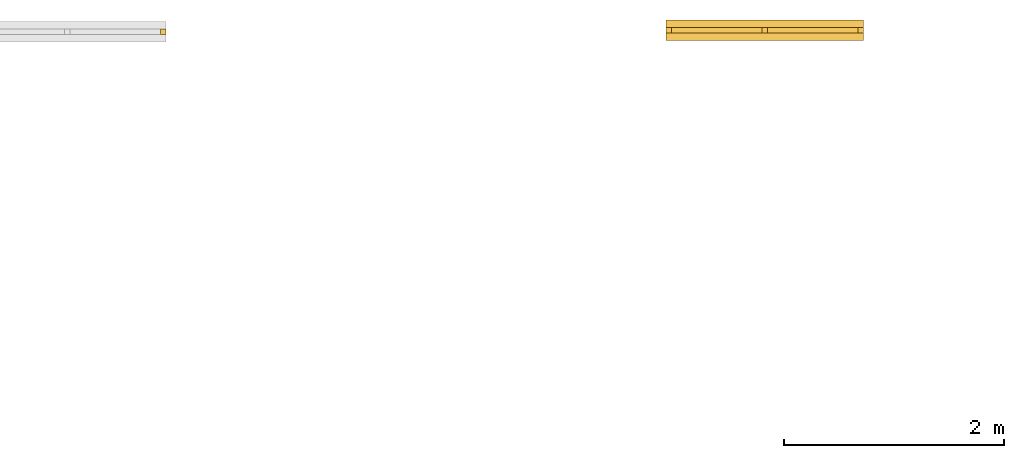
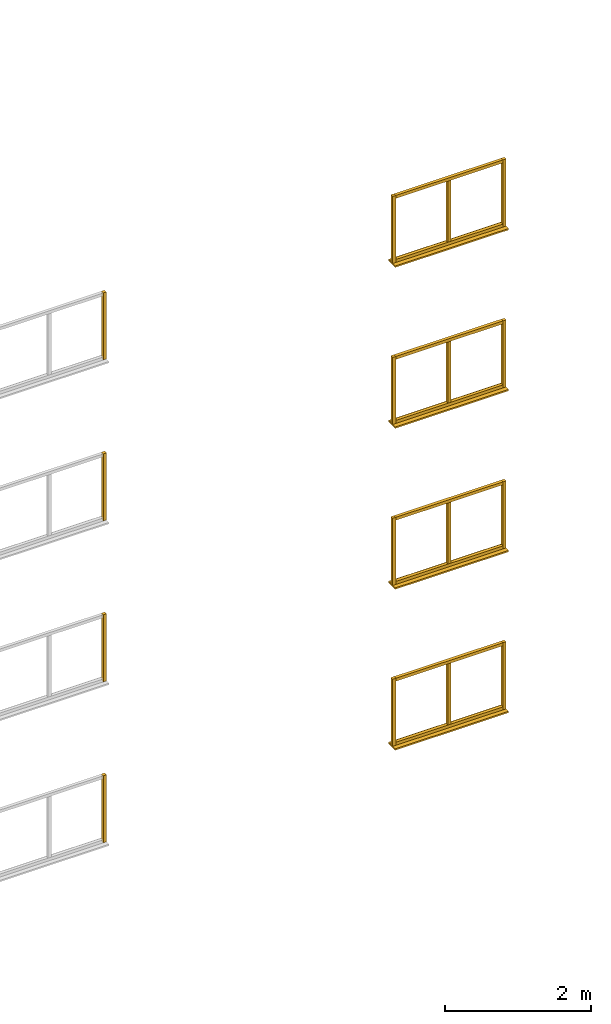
# Not in any storey, part 18 of 22: 28 windows.
"""IFC2X3 model written with IfcOpenShell, lengths in metres."""

import ifcopenshell
import ifcopenshell.guid

model = None  # the IFC model being written
_history = None  # IfcOwnerHistory: only IFC2X3 demands one
_inside = {}  # id of a spatial element -> (the spatial element, [elements in it])
_under = {}  # id of a project, library or spatial element -> (it, [spatial elements below it])
_declared = {}  # id of a project -> (the project, [libraries it declares])
_typed = {}  # id of a type object -> (the type object, [elements of that type])
_made_of = {}  # id of a material, layer set ... -> (it, [elements and type objects made of it])


def new_model(schema):
    """Start an empty IFC model of exactly this schema.

    Asked for "IFC4X3", IfcOpenShell would pick the latest addendum, in which some entities
    have other attributes; the version numbers below select the first issue.
    IFC2X3 requires an IfcOwnerHistory on every rooted entity: one is made here for all.
    """
    global model, _history
    if schema == "IFC4X3":
        model = ifcopenshell.file(schema_version=(4, 3, 0, 0))
    else:
        model = ifcopenshell.file(schema=schema)
    _inside.clear()
    _under.clear()
    _declared.clear()
    _typed.clear()
    _made_of.clear()
    _history = None
    if model.schema == "IFC2X3":
        org = make("IfcOrganization", Name="unknown")
        user = make(
            "IfcPersonAndOrganization",
            ThePerson=make("IfcPerson", FamilyName="unknown"),
            TheOrganization=org,
        )
        app = make(
            "IfcApplication",
            ApplicationDeveloper=org,
            Version="unknown",
            ApplicationFullName="unknown",
            ApplicationIdentifier="unknown",
        )
        _history = make(
            "IfcOwnerHistory",
            OwningUser=user,
            OwningApplication=app,
            ChangeAction="ADDED",
            CreationDate=0,
        )
    return model


def make(cls, **values):
    """One entity of the class cls with the attributes given. An attribute that is None is left unset."""
    return model.create_entity(
        cls, **{name: value for name, value in values.items() if value is not None}
    )


def rooted(cls, **values):
    """An entity with a GlobalId (a new one), such as an element, a storey or a relation."""
    return make(cls, GlobalId=ifcopenshell.guid.new(), OwnerHistory=_history, **values)


def si_unit(unit_type, name, prefix=None):
    """IfcSIUnit, for example si_unit("LENGTHUNIT", "METRE", prefix="MILLI")."""
    return make("IfcSIUnit", UnitType=unit_type, Prefix=prefix, Name=name)


def assignment(units):
    """IfcUnitAssignment: the units of a project."""
    return None if units is None else make("IfcUnitAssignment", Units=units)


def point(xyz):
    """IfcCartesianPoint."""
    return None if xyz is None else make("IfcCartesianPoint", Coordinates=xyz)


def direction(xyz):
    """IfcDirection."""
    return None if xyz is None else make("IfcDirection", DirectionRatios=xyz)


def frame(location, z_axis=None, x_axis=None):
    """IfcAxis2Placement3D, a coordinate frame: its origin and axes. An axis left out is left unset."""
    return make(
        "IfcAxis2Placement3D",
        Location=point(location),
        Axis=direction(z_axis),
        RefDirection=direction(x_axis),
    )


def origin():
    """The frame at (0, 0, 0) with its axes left unset."""
    return frame((0.0, 0.0, 0.0))


def place(relative_to, where):
    """IfcLocalPlacement: puts the frame where relative to a parent placement (None: the world)."""
    return make(
        "IfcLocalPlacement", PlacementRelTo=relative_to, RelativePlacement=where
    )


def context(
    kind, dimensions, precision=None, world=None, true_north=None, identifier=None
):
    """IfcGeometricRepresentationContext, for example the 3D "Model" context."""
    return make(
        "IfcGeometricRepresentationContext",
        ContextIdentifier=identifier,
        ContextType=kind,
        CoordinateSpaceDimension=dimensions,
        Precision=precision,
        WorldCoordinateSystem=world,
        TrueNorth=true_north,
    )


def project(units=None, contexts=None):
    """IfcProject with its units and contexts."""
    return rooted(
        "IfcProject",
        Name="project",
        RepresentationContexts=contexts,
        UnitsInContext=assignment(units),
    )


def faces_of(points, faces, orient=None, outer=None):
    """IfcFace entities. A face is a list of loops; a loop is a list of indices into points, from 0.

    orient and outer hold one flag for each loop. By default every Orientation is true, the
    first loop of a face is its IfcFaceOuterBound and the others are IfcFaceBound.
    """
    made = []
    for i, loops in enumerate(faces):
        bounds = []
        for j, loop in enumerate(loops):
            is_outer = j == 0 if outer is None else outer[i][j]
            bounds.append(
                make(
                    "IfcFaceOuterBound" if is_outer else "IfcFaceBound",
                    Bound=make("IfcPolyLoop", Polygon=[points[k] for k in loop]),
                    Orientation=True if orient is None else orient[i][j],
                )
            )
        made.append(make("IfcFace", Bounds=bounds))
    return made


def faceted_brep(points, faces, orient=None, outer=None, voids=None):
    """IfcFacetedBrep: a solid bounded by flat faces; with voids (closed shells), ...WithVoids."""
    shared = [point(p) for p in points]
    hull = make("IfcClosedShell", CfsFaces=faces_of(shared, faces, orient, outer))
    if voids is None:
        return make("IfcFacetedBrep", Outer=hull)
    return make(
        "IfcFacetedBrepWithVoids",
        Outer=hull,
        Voids=[
            make(cls, CfsFaces=faces_of(shared, fs, o, b)) for cls, fs, o, b in voids
        ],
    )


def shape(context_of_items, identifier, shape_type, items):
    """IfcShapeRepresentation: the items that make up one representation, for example the "Body"."""
    return make(
        "IfcShapeRepresentation",
        ContextOfItems=context_of_items,
        RepresentationIdentifier=identifier,
        RepresentationType=shape_type,
        Items=items,
    )


def made_of(thing, what):
    """Note that an element or type object is made of a material, layer set ...; save() writes the relation."""
    if what is not None:
        _made_of.setdefault(what.id(), (what, []))[1].append(thing)
    return thing


def element(
    cls,
    number,
    at=None,
    inside=None,
    cuts=None,
    type_object=None,
    material=None,
    context=None,
    identifier="Body",
    shape_type=None,
    held_by="IfcProductDefinitionShape",
    body=None,
    shapes=None,
    **own,
):
    """One element of the class cls, such as IfcWall. Its Tag is "e" and its number.

    at: its placement. inside: the storey or other place that contains it. cuts: it is an
    opening in that element (IfcRelVoidsElement). A single representation is given by context,
    identifier, shape_type and body (its items); several are given by shapes. held_by: the class
    of the entity that holds the representations. save() writes the other relations.
    """
    e = rooted(cls, Tag="e%d" % number, ObjectPlacement=at, **own)
    if body is not None:
        shapes = [shape(context, identifier, shape_type, body)]
    if shapes is not None:
        e.Representation = make(held_by, Representations=shapes)
    if inside is not None:
        _inside.setdefault(inside.id(), (inside, []))[1].append(e)
    if cuts is not None:
        rooted(
            "IfcRelVoidsElement", RelatingBuildingElement=cuts, RelatedOpeningElement=e
        )
    if type_object is not None:
        _typed.setdefault(type_object.id(), (type_object, []))[1].append(e)
    return made_of(e, material)


def aggregate(whole, parts):
    """IfcRelAggregates: a whole, such as a stair, and the parts it consists of."""
    return rooted("IfcRelAggregates", RelatingObject=whole, RelatedObjects=parts)


def save(model, path):
    """Write the relations noted so far, then the file.

    IfcRelAggregates (storeys below a building ...), IfcRelContainedInSpatialStructure (elements
    in a storey), IfcRelDefinesByType, IfcRelAssociatesMaterial and IfcRelDeclares: one each for
    every whole, place, type object, material and project.
    """
    for whole, parts in _under.values():
        aggregate(whole, parts)
    for where, things in _inside.values():
        rooted(
            "IfcRelContainedInSpatialStructure",
            RelatedElements=things,
            RelatingStructure=where,
        )
    for kind, things in _typed.values():
        rooted("IfcRelDefinesByType", RelatedObjects=things, RelatingType=kind)
    for what, things in _made_of.values():
        rooted("IfcRelAssociatesMaterial", RelatedObjects=things, RelatingMaterial=what)
    for by, libraries in _declared.values():
        rooted("IfcRelDeclares", RelatingContext=by, RelatedDefinitions=libraries)
    model.write(path)


model = new_model("IFC2X3")

# Units and contexts
model_context = context("Model", 3, precision=1e-06, world=origin())
ifc_project = project(units=[si_unit("LENGTHUNIT", "METRE"), si_unit("PLANEANGLEUNIT", "RADIAN")], contexts=[model_context])

# Windows
placement = place(None, origin())
window_1_placement = place(placement, frame((38.79540136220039, 10.601577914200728, 9.125000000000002), z_axis=(0.0, 0.0, 1.0), x_axis=(-1.0, 0.0, 0.0)))
element("IfcWindow", 1, at=window_1_placement, Name="leftFrame", context=model_context, shape_type="Brep", body=[
    faceted_brep([(0.0, 0.05, 0.0), (0.05, 0.05, 0.0), (0.05, 0.0, 0.0), (0.0, 0.0, 0.0), (0.05, 0.0, 1.125), (0.05, 0.05, 1.125), (0.0, 0.05, 1.125), (0.0, 0.0, 1.125), (0.0, 0.05, 0.0), (0.0, 0.0, 0.0), (0.0, 0.0, 1.125), (0.0, 0.05, 1.125), (0.05, 0.05, 0.0), (0.0, 0.05, 0.0), (0.0, 0.05, 1.125), (0.05, 0.05, 1.125), (0.05, 0.0, 0.0), (0.05, 0.05, 0.0), (0.05, 0.05, 1.125), (0.05, 0.0, 1.125), (0.0, 0.0, 0.0), (0.05, 0.0, 0.0), (0.05, 0.0, 1.125), (0.0, 0.0, 1.125)], [[[0, 1, 2, 3]], [[4, 5, 6, 7]], [[8, 9, 10, 11]], [[12, 13, 14, 15]], [[16, 17, 18, 19]], [[20, 21, 22, 23]]]),
])
window_2_placement = place(placement, frame((38.74540136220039, 10.601577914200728, 9.125000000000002), z_axis=(0.0, 0.0, 1.0), x_axis=(-1.0, 0.0, 0.0)))
element("IfcWindow", 2, at=window_2_placement, Name="bottomFrame", context=model_context, shape_type="Brep", body=[
    faceted_brep([(0.0, 0.05, 0.0), (1.7, 0.05, 0.0), (1.7, 0.0, 0.0), (0.0, 0.0, 0.0), (1.7, 0.0, 0.05), (1.7, 0.05, 0.05), (0.0, 0.05, 0.05), (0.0, 0.0, 0.05), (0.0, 0.05, 0.0), (0.0, 0.0, 0.0), (0.0, 0.0, 0.05), (0.0, 0.05, 0.05), (1.7, 0.05, 0.0), (0.0, 0.05, 0.0), (0.0, 0.05, 0.05), (1.7, 0.05, 0.05), (1.7, 0.0, 0.0), (1.7, 0.05, 0.0), (1.7, 0.05, 0.05), (1.7, 0.0, 0.05), (0.0, 0.0, 0.0), (1.7, 0.0, 0.0), (1.7, 0.0, 0.05), (0.0, 0.0, 0.05)], [[[0, 1, 2, 3]], [[4, 5, 6, 7]], [[8, 9, 10, 11]], [[12, 13, 14, 15]], [[16, 17, 18, 19]], [[20, 21, 22, 23]]]),
])
window_3_placement = place(placement, frame((37.92040136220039, 10.601577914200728, 9.175), z_axis=(0.0, 0.0, 1.0), x_axis=(-1.0, 0.0, 0.0)))
element("IfcWindow", 3, at=window_3_placement, Name="verticalBar", context=model_context, shape_type="Brep", body=[
    faceted_brep([(0.0, 0.05, 0.0), (0.05, 0.05, 0.0), (0.05, 0.0, 0.0), (0.0, 0.0, 0.0), (0.05, 0.0, 1.025), (0.05, 0.05, 1.025), (0.0, 0.05, 1.025), (0.0, 0.0, 1.025), (0.0, 0.05, 0.0), (0.0, 0.0, 0.0), (0.0, 0.0, 1.025), (0.0, 0.05, 1.025), (0.05, 0.05, 0.0), (0.0, 0.05, 0.0), (0.0, 0.05, 1.025), (0.05, 0.05, 1.025), (0.05, 0.0, 0.0), (0.05, 0.05, 0.0), (0.05, 0.05, 1.025), (0.05, 0.0, 1.025), (0.0, 0.0, 0.0), (0.05, 0.0, 0.0), (0.05, 0.0, 1.025), (0.0, 0.0, 1.025)], [[[0, 1, 2, 3]], [[4, 5, 6, 7]], [[8, 9, 10, 11]], [[12, 13, 14, 15]], [[16, 17, 18, 19]], [[20, 21, 22, 23]]]),
])
for number, where, z_axis, x_axis, name in (
    (4, (37.04540136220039, 10.601577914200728, 9.125000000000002), (0.0, 0.0, 1.0), (-1.0, 0.0, 0.0), "rightFrame"),
    (5, (32.44499990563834, 10.588577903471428, 9.125000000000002), (0.0, 0.0, 1.0), (-1.0, 0.0, 0.0), "leftFrame"),
    (6, (32.44499990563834, 10.588577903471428, 6.425000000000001), (0.0, 0.0, 1.0), (-1.0, 0.0, 0.0), "leftFrame"),
):
    element("IfcWindow", number, at=place(placement, frame(where, z_axis=z_axis, x_axis=x_axis)), Name=name, context=model_context, shape_type="Brep", body=[
        faceted_brep([(0.0, 0.05, 0.0), (0.05, 0.05, 0.0), (0.05, 0.0, 0.0), (0.0, 0.0, 0.0), (0.05, 0.0, 1.125), (0.05, 0.05, 1.125), (0.0, 0.05, 1.125), (0.0, 0.0, 1.125), (0.0, 0.05, 0.0), (0.0, 0.0, 0.0), (0.0, 0.0, 1.125), (0.0, 0.05, 1.125), (0.05, 0.05, 0.0), (0.0, 0.05, 0.0), (0.0, 0.05, 1.125), (0.05, 0.05, 1.125), (0.05, 0.0, 0.0), (0.05, 0.05, 0.0), (0.05, 0.05, 1.125), (0.05, 0.0, 1.125), (0.0, 0.0, 0.0), (0.05, 0.0, 0.0), (0.05, 0.0, 1.125), (0.0, 0.0, 1.125)], [[[0, 1, 2, 3]], [[4, 5, 6, 7]], [[8, 9, 10, 11]], [[12, 13, 14, 15]], [[16, 17, 18, 19]], [[20, 21, 22, 23]]]),
    ])
window_4_placement = place(placement, frame((38.79540136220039, 10.670077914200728, 6.4), z_axis=(0.0, 0.0, 1.0), x_axis=(-1.0, 0.0, 0.0)))
element("IfcWindow", 7, at=window_4_placement, Name="windowSill", context=model_context, shape_type="Brep", body=[
    faceted_brep([(0.0, 0.187, 0.0), (1.8, 0.187, 0.0), (1.8, 0.0, 0.0), (0.0, 0.0, 0.0), (1.8, 0.0, 0.025), (1.8, 0.187, 0.025), (0.0, 0.187, 0.025), (0.0, 0.0, 0.025), (0.0, 0.187, 0.0), (0.0, 0.0, 0.0), (0.0, 0.0, 0.025), (0.0, 0.187, 0.025), (1.8, 0.187, 0.0), (0.0, 0.187, 0.0), (0.0, 0.187, 0.025), (1.8, 0.187, 0.025), (1.8, 0.0, 0.0), (1.8, 0.187, 0.0), (1.8, 0.187, 0.025), (1.8, 0.0, 0.025), (0.0, 0.0, 0.0), (1.8, 0.0, 0.0), (1.8, 0.0, 0.025), (0.0, 0.0, 0.025)], [[[0, 1, 2, 3]], [[4, 5, 6, 7]], [[8, 9, 10, 11]], [[12, 13, 14, 15]], [[16, 17, 18, 19]], [[20, 21, 22, 23]]]),
])
for number, where, z_axis, x_axis, name in (
    (8, (38.79540136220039, 10.601577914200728, 6.425000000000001), (0.0, 0.0, 1.0), (-1.0, 0.0, 0.0), "leftFrame"),
    (9, (37.04540136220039, 10.601577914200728, 6.425000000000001), (0.0, 0.0, 1.0), (-1.0, 0.0, 0.0), "rightFrame"),
):
    element("IfcWindow", number, at=place(placement, frame(where, z_axis=z_axis, x_axis=x_axis)), Name=name, context=model_context, shape_type="Brep", body=[
        faceted_brep([(0.0, 0.05, 0.0), (0.05, 0.05, 0.0), (0.05, 0.0, 0.0), (0.0, 0.0, 0.0), (0.05, 0.0, 1.125), (0.05, 0.05, 1.125), (0.0, 0.05, 1.125), (0.0, 0.0, 1.125), (0.0, 0.05, 0.0), (0.0, 0.0, 0.0), (0.0, 0.0, 1.125), (0.0, 0.05, 1.125), (0.05, 0.05, 0.0), (0.0, 0.05, 0.0), (0.0, 0.05, 1.125), (0.05, 0.05, 1.125), (0.05, 0.0, 0.0), (0.05, 0.05, 0.0), (0.05, 0.05, 1.125), (0.05, 0.0, 1.125), (0.0, 0.0, 0.0), (0.05, 0.0, 0.0), (0.05, 0.0, 1.125), (0.0, 0.0, 1.125)], [[[0, 1, 2, 3]], [[4, 5, 6, 7]], [[8, 9, 10, 11]], [[12, 13, 14, 15]], [[16, 17, 18, 19]], [[20, 21, 22, 23]]]),
    ])
window_5_placement = place(placement, frame((38.74540136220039, 10.601577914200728, 7.5), z_axis=(0.0, 0.0, 1.0), x_axis=(-1.0, 0.0, 0.0)))
element("IfcWindow", 10, at=window_5_placement, Name="topFrame", context=model_context, shape_type="Brep", body=[
    faceted_brep([(0.0, 0.05, 0.0), (1.7, 0.05, 0.0), (1.7, 0.0, 0.0), (0.0, 0.0, 0.0), (1.7, 0.0, 0.05), (1.7, 0.05, 0.05), (0.0, 0.05, 0.05), (0.0, 0.0, 0.05), (0.0, 0.05, 0.0), (0.0, 0.0, 0.0), (0.0, 0.0, 0.05), (0.0, 0.05, 0.05), (1.7, 0.05, 0.0), (0.0, 0.05, 0.0), (0.0, 0.05, 0.05), (1.7, 0.05, 0.05), (1.7, 0.0, 0.0), (1.7, 0.05, 0.0), (1.7, 0.05, 0.05), (1.7, 0.0, 0.05), (0.0, 0.0, 0.0), (1.7, 0.0, 0.0), (1.7, 0.0, 0.05), (0.0, 0.0, 0.05)], [[[0, 1, 2, 3]], [[4, 5, 6, 7]], [[8, 9, 10, 11]], [[12, 13, 14, 15]], [[16, 17, 18, 19]], [[20, 21, 22, 23]]]),
])
window_6_placement = place(placement, frame((37.92040136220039, 10.601577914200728, 6.475000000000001), z_axis=(0.0, 0.0, 1.0), x_axis=(-1.0, 0.0, 0.0)))
element("IfcWindow", 11, at=window_6_placement, Name="verticalBar", context=model_context, shape_type="Brep", body=[
    faceted_brep([(0.0, 0.05, 0.0), (0.05, 0.05, 0.0), (0.05, 0.0, 0.0), (0.0, 0.0, 0.0), (0.05, 0.0, 1.025), (0.05, 0.05, 1.025), (0.0, 0.05, 1.025), (0.0, 0.0, 1.025), (0.0, 0.05, 0.0), (0.0, 0.0, 0.0), (0.0, 0.0, 1.025), (0.0, 0.05, 1.025), (0.05, 0.05, 0.0), (0.0, 0.05, 0.0), (0.0, 0.05, 1.025), (0.05, 0.05, 1.025), (0.05, 0.0, 0.0), (0.05, 0.05, 0.0), (0.05, 0.05, 1.025), (0.05, 0.0, 1.025), (0.0, 0.0, 0.0), (0.05, 0.0, 0.0), (0.05, 0.0, 1.025), (0.0, 0.0, 1.025)], [[[0, 1, 2, 3]], [[4, 5, 6, 7]], [[8, 9, 10, 11]], [[12, 13, 14, 15]], [[16, 17, 18, 19]], [[20, 21, 22, 23]]]),
])
window_7_placement = place(placement, frame((38.74540136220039, 10.601577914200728, 6.425000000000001), z_axis=(0.0, 0.0, 1.0), x_axis=(-1.0, 0.0, 0.0)))
element("IfcWindow", 12, at=window_7_placement, Name="bottomFrame", context=model_context, shape_type="Brep", body=[
    faceted_brep([(0.0, 0.05, 0.0), (1.7, 0.05, 0.0), (1.7, 0.0, 0.0), (0.0, 0.0, 0.0), (1.7, 0.0, 0.05), (1.7, 0.05, 0.05), (0.0, 0.05, 0.05), (0.0, 0.0, 0.05), (0.0, 0.05, 0.0), (0.0, 0.0, 0.0), (0.0, 0.0, 0.05), (0.0, 0.05, 0.05), (1.7, 0.05, 0.0), (0.0, 0.05, 0.0), (0.0, 0.05, 0.05), (1.7, 0.05, 0.05), (1.7, 0.0, 0.0), (1.7, 0.05, 0.0), (1.7, 0.05, 0.05), (1.7, 0.0, 0.05), (0.0, 0.0, 0.0), (1.7, 0.0, 0.0), (1.7, 0.0, 0.05), (0.0, 0.0, 0.05)], [[[0, 1, 2, 3]], [[4, 5, 6, 7]], [[8, 9, 10, 11]], [[12, 13, 14, 15]], [[16, 17, 18, 19]], [[20, 21, 22, 23]]]),
])
window_8_placement = place(placement, frame((32.44499990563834, 10.588577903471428, 3.725), z_axis=(0.0, 0.0, 1.0), x_axis=(-1.0, 0.0, 0.0)))
element("IfcWindow", 13, at=window_8_placement, Name="leftFrame", context=model_context, shape_type="Brep", body=[
    faceted_brep([(0.0, 0.05, 0.0), (0.05, 0.05, 0.0), (0.05, 0.0, 0.0), (0.0, 0.0, 0.0), (0.05, 0.0, 1.125), (0.05, 0.05, 1.125), (0.0, 0.05, 1.125), (0.0, 0.0, 1.125), (0.0, 0.05, 0.0), (0.0, 0.0, 0.0), (0.0, 0.0, 1.125), (0.0, 0.05, 1.125), (0.05, 0.05, 0.0), (0.0, 0.05, 0.0), (0.0, 0.05, 1.125), (0.05, 0.05, 1.125), (0.05, 0.0, 0.0), (0.05, 0.05, 0.0), (0.05, 0.05, 1.125), (0.05, 0.0, 1.125), (0.0, 0.0, 0.0), (0.05, 0.0, 0.0), (0.05, 0.0, 1.125), (0.0, 0.0, 1.125)], [[[0, 1, 2, 3]], [[4, 5, 6, 7]], [[8, 9, 10, 11]], [[12, 13, 14, 15]], [[16, 17, 18, 19]], [[20, 21, 22, 23]]]),
])
for number, where, z_axis, x_axis, name in (
    (14, (38.74540136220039, 10.601577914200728, 3.725), (0.0, 0.0, 1.0), (-1.0, 0.0, 0.0), "bottomFrame"),
    (15, (38.74540136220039, 10.601577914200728, 4.8), (0.0, 0.0, 1.0), (-1.0, 0.0, 0.0), "topFrame"),
):
    element("IfcWindow", number, at=place(placement, frame(where, z_axis=z_axis, x_axis=x_axis)), Name=name, context=model_context, shape_type="Brep", body=[
        faceted_brep([(0.0, 0.05, 0.0), (1.7, 0.05, 0.0), (1.7, 0.0, 0.0), (0.0, 0.0, 0.0), (1.7, 0.0, 0.05), (1.7, 0.05, 0.05), (0.0, 0.05, 0.05), (0.0, 0.0, 0.05), (0.0, 0.05, 0.0), (0.0, 0.0, 0.0), (0.0, 0.0, 0.05), (0.0, 0.05, 0.05), (1.7, 0.05, 0.0), (0.0, 0.05, 0.0), (0.0, 0.05, 0.05), (1.7, 0.05, 0.05), (1.7, 0.0, 0.0), (1.7, 0.05, 0.0), (1.7, 0.05, 0.05), (1.7, 0.0, 0.05), (0.0, 0.0, 0.0), (1.7, 0.0, 0.0), (1.7, 0.0, 0.05), (0.0, 0.0, 0.05)], [[[0, 1, 2, 3]], [[4, 5, 6, 7]], [[8, 9, 10, 11]], [[12, 13, 14, 15]], [[16, 17, 18, 19]], [[20, 21, 22, 23]]]),
    ])
for number, where, z_axis, x_axis, name in (
    (16, (37.04540136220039, 10.601577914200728, 3.725), (0.0, 0.0, 1.0), (-1.0, 0.0, 0.0), "rightFrame"),
    (17, (38.79540136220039, 10.601577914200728, 3.725), (0.0, 0.0, 1.0), (-1.0, 0.0, 0.0), "leftFrame"),
):
    element("IfcWindow", number, at=place(placement, frame(where, z_axis=z_axis, x_axis=x_axis)), Name=name, context=model_context, shape_type="Brep", body=[
        faceted_brep([(0.0, 0.05, 0.0), (0.05, 0.05, 0.0), (0.05, 0.0, 0.0), (0.0, 0.0, 0.0), (0.05, 0.0, 1.125), (0.05, 0.05, 1.125), (0.0, 0.05, 1.125), (0.0, 0.0, 1.125), (0.0, 0.05, 0.0), (0.0, 0.0, 0.0), (0.0, 0.0, 1.125), (0.0, 0.05, 1.125), (0.05, 0.05, 0.0), (0.0, 0.05, 0.0), (0.0, 0.05, 1.125), (0.05, 0.05, 1.125), (0.05, 0.0, 0.0), (0.05, 0.05, 0.0), (0.05, 0.05, 1.125), (0.05, 0.0, 1.125), (0.0, 0.0, 0.0), (0.05, 0.0, 0.0), (0.05, 0.0, 1.125), (0.0, 0.0, 1.125)], [[[0, 1, 2, 3]], [[4, 5, 6, 7]], [[8, 9, 10, 11]], [[12, 13, 14, 15]], [[16, 17, 18, 19]], [[20, 21, 22, 23]]]),
    ])
window_9_placement = place(placement, frame((38.79540136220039, 10.670077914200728, 3.7), z_axis=(0.0, 0.0, 1.0), x_axis=(-1.0, 0.0, 0.0)))
element("IfcWindow", 18, at=window_9_placement, Name="windowSill", context=model_context, shape_type="Brep", body=[
    faceted_brep([(0.0, 0.187, 0.0), (1.8, 0.187, 0.0), (1.8, 0.0, 0.0), (0.0, 0.0, 0.0), (1.8, 0.0, 0.025), (1.8, 0.187, 0.025), (0.0, 0.187, 0.025), (0.0, 0.0, 0.025), (0.0, 0.187, 0.0), (0.0, 0.0, 0.0), (0.0, 0.0, 0.025), (0.0, 0.187, 0.025), (1.8, 0.187, 0.0), (0.0, 0.187, 0.0), (0.0, 0.187, 0.025), (1.8, 0.187, 0.025), (1.8, 0.0, 0.0), (1.8, 0.187, 0.0), (1.8, 0.187, 0.025), (1.8, 0.0, 0.025), (0.0, 0.0, 0.0), (1.8, 0.0, 0.0), (1.8, 0.0, 0.025), (0.0, 0.0, 0.025)], [[[0, 1, 2, 3]], [[4, 5, 6, 7]], [[8, 9, 10, 11]], [[12, 13, 14, 15]], [[16, 17, 18, 19]], [[20, 21, 22, 23]]]),
])
window_10_placement = place(placement, frame((37.92040136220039, 10.601577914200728, 3.775), z_axis=(0.0, 0.0, 1.0), x_axis=(-1.0, 0.0, 0.0)))
element("IfcWindow", 19, at=window_10_placement, Name="verticalBar", context=model_context, shape_type="Brep", body=[
    faceted_brep([(0.0, 0.05, 0.0), (0.05, 0.05, 0.0), (0.05, 0.0, 0.0), (0.0, 0.0, 0.0), (0.05, 0.0, 1.025), (0.05, 0.05, 1.025), (0.0, 0.05, 1.025), (0.0, 0.0, 1.025), (0.0, 0.05, 0.0), (0.0, 0.0, 0.0), (0.0, 0.0, 1.025), (0.0, 0.05, 1.025), (0.05, 0.05, 0.0), (0.0, 0.05, 0.0), (0.0, 0.05, 1.025), (0.05, 0.05, 1.025), (0.05, 0.0, 0.0), (0.05, 0.05, 0.0), (0.05, 0.05, 1.025), (0.05, 0.0, 1.025), (0.0, 0.0, 0.0), (0.05, 0.0, 0.0), (0.05, 0.0, 1.025), (0.0, 0.0, 1.025)], [[[0, 1, 2, 3]], [[4, 5, 6, 7]], [[8, 9, 10, 11]], [[12, 13, 14, 15]], [[16, 17, 18, 19]], [[20, 21, 22, 23]]]),
])
window_11_placement = place(placement, frame((38.79540136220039, 10.670077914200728, 9.100000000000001), z_axis=(0.0, 0.0, 1.0), x_axis=(-1.0, 0.0, 0.0)))
element("IfcWindow", 20, at=window_11_placement, Name="windowSill", context=model_context, shape_type="Brep", body=[
    faceted_brep([(0.0, 0.187, 0.0), (1.8, 0.187, 0.0), (1.8, 0.0, 0.0), (0.0, 0.0, 0.0), (1.8, 0.0, 0.025), (1.8, 0.187, 0.025), (0.0, 0.187, 0.025), (0.0, 0.0, 0.025), (0.0, 0.187, 0.0), (0.0, 0.0, 0.0), (0.0, 0.0, 0.025), (0.0, 0.187, 0.025), (1.8, 0.187, 0.0), (0.0, 0.187, 0.0), (0.0, 0.187, 0.025), (1.8, 0.187, 0.025), (1.8, 0.0, 0.0), (1.8, 0.187, 0.0), (1.8, 0.187, 0.025), (1.8, 0.0, 0.025), (0.0, 0.0, 0.0), (1.8, 0.0, 0.0), (1.8, 0.0, 0.025), (0.0, 0.0, 0.025)], [[[0, 1, 2, 3]], [[4, 5, 6, 7]], [[8, 9, 10, 11]], [[12, 13, 14, 15]], [[16, 17, 18, 19]], [[20, 21, 22, 23]]]),
])
window_12_placement = place(placement, frame((32.44499990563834, 10.588577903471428, 1.025), z_axis=(0.0, 0.0, 1.0), x_axis=(-1.0, 0.0, 0.0)))
element("IfcWindow", 21, at=window_12_placement, Name="leftFrame", context=model_context, shape_type="Brep", body=[
    faceted_brep([(0.0, 0.05, 0.0), (0.05, 0.05, 0.0), (0.05, 0.0, 0.0), (0.0, 0.0, 0.0), (0.05, 0.0, 1.125), (0.05, 0.05, 1.125), (0.0, 0.05, 1.125), (0.0, 0.0, 1.125), (0.0, 0.05, 0.0), (0.0, 0.0, 0.0), (0.0, 0.0, 1.125), (0.0, 0.05, 1.125), (0.05, 0.05, 0.0), (0.0, 0.05, 0.0), (0.0, 0.05, 1.125), (0.05, 0.05, 1.125), (0.05, 0.0, 0.0), (0.05, 0.05, 0.0), (0.05, 0.05, 1.125), (0.05, 0.0, 1.125), (0.0, 0.0, 0.0), (0.05, 0.0, 0.0), (0.05, 0.0, 1.125), (0.0, 0.0, 1.125)], [[[0, 1, 2, 3]], [[4, 5, 6, 7]], [[8, 9, 10, 11]], [[12, 13, 14, 15]], [[16, 17, 18, 19]], [[20, 21, 22, 23]]]),
])
window_13_placement = place(placement, frame((37.92040136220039, 10.601577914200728, 1.075), z_axis=(0.0, 0.0, 1.0), x_axis=(-1.0, 0.0, 0.0)))
element("IfcWindow", 22, at=window_13_placement, Name="verticalBar", context=model_context, shape_type="Brep", body=[
    faceted_brep([(0.0, 0.05, 0.0), (0.05, 0.05, 0.0), (0.05, 0.0, 0.0), (0.0, 0.0, 0.0), (0.05, 0.0, 1.025), (0.05, 0.05, 1.025), (0.0, 0.05, 1.025), (0.0, 0.0, 1.025), (0.0, 0.05, 0.0), (0.0, 0.0, 0.0), (0.0, 0.0, 1.025), (0.0, 0.05, 1.025), (0.05, 0.05, 0.0), (0.0, 0.05, 0.0), (0.0, 0.05, 1.025), (0.05, 0.05, 1.025), (0.05, 0.0, 0.0), (0.05, 0.05, 0.0), (0.05, 0.05, 1.025), (0.05, 0.0, 1.025), (0.0, 0.0, 0.0), (0.05, 0.0, 0.0), (0.05, 0.0, 1.025), (0.0, 0.0, 1.025)], [[[0, 1, 2, 3]], [[4, 5, 6, 7]], [[8, 9, 10, 11]], [[12, 13, 14, 15]], [[16, 17, 18, 19]], [[20, 21, 22, 23]]]),
])
window_14_placement = place(placement, frame((38.79540136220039, 10.670077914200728, 1.0), z_axis=(0.0, 0.0, 1.0), x_axis=(-1.0, 0.0, 0.0)))
element("IfcWindow", 23, at=window_14_placement, Name="windowSill", context=model_context, shape_type="Brep", body=[
    faceted_brep([(0.0, 0.187, 0.0), (1.8, 0.187, 0.0), (1.8, 0.0, 0.0), (0.0, 0.0, 0.0), (1.8, 0.0, 0.025), (1.8, 0.187, 0.025), (0.0, 0.187, 0.025), (0.0, 0.0, 0.025), (0.0, 0.187, 0.0), (0.0, 0.0, 0.0), (0.0, 0.0, 0.025), (0.0, 0.187, 0.025), (1.8, 0.187, 0.0), (0.0, 0.187, 0.0), (0.0, 0.187, 0.025), (1.8, 0.187, 0.025), (1.8, 0.0, 0.0), (1.8, 0.187, 0.0), (1.8, 0.187, 0.025), (1.8, 0.0, 0.025), (0.0, 0.0, 0.0), (1.8, 0.0, 0.0), (1.8, 0.0, 0.025), (0.0, 0.0, 0.025)], [[[0, 1, 2, 3]], [[4, 5, 6, 7]], [[8, 9, 10, 11]], [[12, 13, 14, 15]], [[16, 17, 18, 19]], [[20, 21, 22, 23]]]),
])
for number, where, z_axis, x_axis, name in (
    (24, (37.04540136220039, 10.601577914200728, 1.025), (0.0, 0.0, 1.0), (-1.0, 0.0, 0.0), "rightFrame"),
    (25, (38.79540136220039, 10.601577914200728, 1.025), (0.0, 0.0, 1.0), (-1.0, 0.0, 0.0), "leftFrame"),
):
    element("IfcWindow", number, at=place(placement, frame(where, z_axis=z_axis, x_axis=x_axis)), Name=name, context=model_context, shape_type="Brep", body=[
        faceted_brep([(0.0, 0.05, 0.0), (0.05, 0.05, 0.0), (0.05, 0.0, 0.0), (0.0, 0.0, 0.0), (0.05, 0.0, 1.125), (0.05, 0.05, 1.125), (0.0, 0.05, 1.125), (0.0, 0.0, 1.125), (0.0, 0.05, 0.0), (0.0, 0.0, 0.0), (0.0, 0.0, 1.125), (0.0, 0.05, 1.125), (0.05, 0.05, 0.0), (0.0, 0.05, 0.0), (0.0, 0.05, 1.125), (0.05, 0.05, 1.125), (0.05, 0.0, 0.0), (0.05, 0.05, 0.0), (0.05, 0.05, 1.125), (0.05, 0.0, 1.125), (0.0, 0.0, 0.0), (0.05, 0.0, 0.0), (0.05, 0.0, 1.125), (0.0, 0.0, 1.125)], [[[0, 1, 2, 3]], [[4, 5, 6, 7]], [[8, 9, 10, 11]], [[12, 13, 14, 15]], [[16, 17, 18, 19]], [[20, 21, 22, 23]]]),
    ])
for number, where, z_axis, x_axis, name in (
    (26, (38.74540136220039, 10.601577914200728, 2.1), (0.0, 0.0, 1.0), (-1.0, 0.0, 0.0), "topFrame"),
    (27, (38.74540136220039, 10.601577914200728, 1.025), (0.0, 0.0, 1.0), (-1.0, 0.0, 0.0), "bottomFrame"),
    (28, (38.74540136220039, 10.601577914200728, 10.200000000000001), (0.0, 0.0, 1.0), (-1.0, 0.0, 0.0), "topFrame"),
):
    element("IfcWindow", number, at=place(placement, frame(where, z_axis=z_axis, x_axis=x_axis)), Name=name, context=model_context, shape_type="Brep", body=[
        faceted_brep([(0.0, 0.05, 0.0), (1.7, 0.05, 0.0), (1.7, 0.0, 0.0), (0.0, 0.0, 0.0), (1.7, 0.0, 0.05), (1.7, 0.05, 0.05), (0.0, 0.05, 0.05), (0.0, 0.0, 0.05), (0.0, 0.05, 0.0), (0.0, 0.0, 0.0), (0.0, 0.0, 0.05), (0.0, 0.05, 0.05), (1.7, 0.05, 0.0), (0.0, 0.05, 0.0), (0.0, 0.05, 0.05), (1.7, 0.05, 0.05), (1.7, 0.0, 0.0), (1.7, 0.05, 0.0), (1.7, 0.05, 0.05), (1.7, 0.0, 0.05), (0.0, 0.0, 0.0), (1.7, 0.0, 0.0), (1.7, 0.0, 0.05), (0.0, 0.0, 0.05)], [[[0, 1, 2, 3]], [[4, 5, 6, 7]], [[8, 9, 10, 11]], [[12, 13, 14, 15]], [[16, 17, 18, 19]], [[20, 21, 22, 23]]]),
    ])

save(model, "model.ifc")
